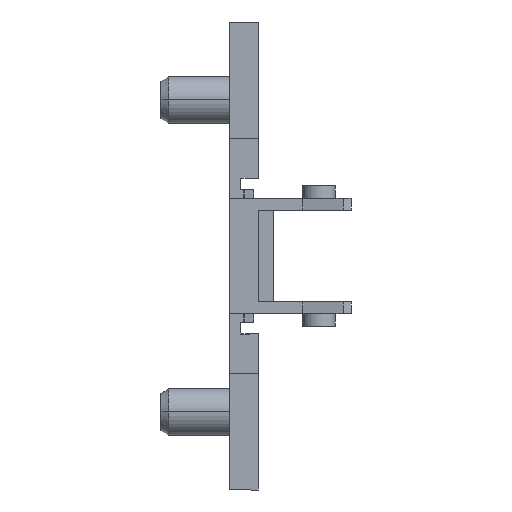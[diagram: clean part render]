
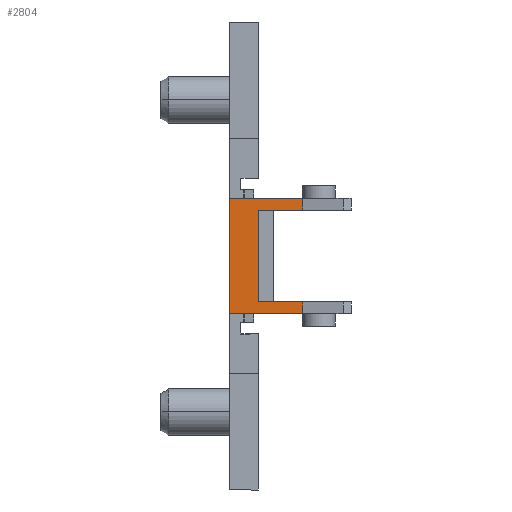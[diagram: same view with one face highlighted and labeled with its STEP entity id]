
A CAD part, front view. The second image highlights one B-rep face of the part: STEP entity #2804.
In plain terms, the highlighted planar face has unit normal (0, -1, 0).
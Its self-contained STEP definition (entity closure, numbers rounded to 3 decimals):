
#88 = VERTEX_POINT ( 'NONE', #331 ) ;
#89 = VERTEX_POINT ( 'NONE', #318 ) ;
#90 = VERTEX_POINT ( 'NONE', #362 ) ;
#91 = VERTEX_POINT ( 'NONE', #330 ) ;
#95 = VERTEX_POINT ( 'NONE', #380 ) ;
#97 = VERTEX_POINT ( 'NONE', #378 ) ;
#98 = VERTEX_POINT ( 'NONE', #379 ) ;
#99 = VERTEX_POINT ( 'NONE', #385 ) ;
#318 = CARTESIAN_POINT ( 'NONE',  ( 7.523, -16.55, -5.9 ) ) ;
#330 = CARTESIAN_POINT ( 'NONE',  ( 0., -16.55, 5.9 ) ) ;
#331 = CARTESIAN_POINT ( 'NONE',  ( 7.523, -16.55, -4.7 ) ) ;
#362 = CARTESIAN_POINT ( 'NONE',  ( 0., -16.55, -5.9 ) ) ;
#378 = CARTESIAN_POINT ( 'NONE',  ( 7.523, -16.55, 5.9 ) ) ;
#379 = CARTESIAN_POINT ( 'NONE',  ( 7.523, -16.55, 4.7 ) ) ;
#380 = CARTESIAN_POINT ( 'NONE',  ( 3., -16.55, 4.7 ) ) ;
#385 = CARTESIAN_POINT ( 'NONE',  ( 3., -16.55, -4.7 ) ) ;
#529 = CARTESIAN_POINT ( 'NONE',  ( 12.5, -16.55, -4.7 ) ) ;
#566 = DIRECTION ( 'NONE',  ( 1., 0., 0. ) ) ;
#950 = CARTESIAN_POINT ( 'NONE',  ( 1.5, -16.55, -5.9 ) ) ;
#956 = DIRECTION ( 'NONE',  ( 1., 0., 0. ) ) ;
#1186 = CARTESIAN_POINT ( 'NONE',  ( 12.5, -16.55, 5.9 ) ) ;
#1190 = DIRECTION ( 'NONE',  ( -1., 0., 0. ) ) ;
#1193 = CARTESIAN_POINT ( 'NONE',  ( 12.5, -16.55, 4.7 ) ) ;
#1203 = DIRECTION ( 'NONE',  ( 1., 0., 0. ) ) ;
#1235 = CARTESIAN_POINT ( 'NONE',  ( 0., -16.55, 15.37 ) ) ;
#1236 = DIRECTION ( 'NONE',  ( 0., 0., -1. ) ) ;
#1259 = CARTESIAN_POINT ( 'NONE',  ( 7.523, -16.55, 67.733 ) ) ;
#1260 = DIRECTION ( 'NONE',  ( 0., 0., -1. ) ) ;
#1484 = EDGE_CURVE ( 'NONE', #90, #89, #2015, .T. ) ;
#1587 = AXIS2_PLACEMENT_3D ( 'NONE', #4085, #4101, #4102 ) ;
#1671 = EDGE_CURVE ( 'NONE', #97, #91, #2183, .T. ) ;
#1683 = EDGE_CURVE ( 'NONE', #95, #98, #2200, .T. ) ;
#1708 = EDGE_CURVE ( 'NONE', #91, #90, #2225, .T. ) ;
#1731 = EDGE_CURVE ( 'NONE', #97, #98, #2240, .T. ) ;
#2007 = VECTOR ( 'NONE', #956, 1000. ) ;
#2015 = LINE ( 'NONE', #950, #2007 ) ;
#2183 = LINE ( 'NONE', #1186, #2192 ) ;
#2192 = VECTOR ( 'NONE', #1190, 1000. ) ;
#2200 = LINE ( 'NONE', #1193, #2202 ) ;
#2202 = VECTOR ( 'NONE', #1203, 1000. ) ;
#2225 = LINE ( 'NONE', #1235, #2226 ) ;
#2226 = VECTOR ( 'NONE', #1236, 1000. ) ;
#2240 = LINE ( 'NONE', #1259, #2241 ) ;
#2241 = VECTOR ( 'NONE', #1260, 1000. ) ;
#2349 = FACE_OUTER_BOUND ( 'NONE', #3528, .T. ) ;
#2526 = LINE ( 'NONE', #4504, #2527 ) ;
#2527 = VECTOR ( 'NONE', #4505, 1000. ) ;
#2528 = LINE ( 'NONE', #4510, #2540 ) ;
#2540 = VECTOR ( 'NONE', #4515, 1000. ) ;
#2667 = LINE ( 'NONE', #529, #2671 ) ;
#2671 = VECTOR ( 'NONE', #566, 1000. ) ;
#2804 = ADVANCED_FACE ( 'NONE', ( #2349 ), #4082, .T. ) ;
#3207 = ORIENTED_EDGE ( 'NONE', *, *, #3866, .F. ) ;
#3477 = ORIENTED_EDGE ( 'NONE', *, *, #1683, .T. ) ;
#3528 = EDGE_LOOP ( 'NONE', ( #3556, #3477, #3654, #3557, #3537, #3566, #3686, #3207 ) ) ;
#3537 = ORIENTED_EDGE ( 'NONE', *, *, #1708, .T. ) ;
#3556 = ORIENTED_EDGE ( 'NONE', *, *, #3788, .F. ) ;
#3557 = ORIENTED_EDGE ( 'NONE', *, *, #1671, .T. ) ;
#3566 = ORIENTED_EDGE ( 'NONE', *, *, #1484, .T. ) ;
#3654 = ORIENTED_EDGE ( 'NONE', *, *, #1731, .F. ) ;
#3686 = ORIENTED_EDGE ( 'NONE', *, *, #3793, .F. ) ;
#3788 = EDGE_CURVE ( 'NONE', #95, #99, #2526, .T. ) ;
#3793 = EDGE_CURVE ( 'NONE', #88, #89, #2528, .T. ) ;
#3866 = EDGE_CURVE ( 'NONE', #99, #88, #2667, .T. ) ;
#4082 = PLANE ( 'NONE',  #1587 ) ;
#4085 = CARTESIAN_POINT ( 'NONE',  ( 12.5, -16.55, -5.9 ) ) ;
#4101 = DIRECTION ( 'NONE',  ( 0., -1., 0. ) ) ;
#4102 = DIRECTION ( 'NONE',  ( -1., 0., 0. ) ) ;
#4504 = CARTESIAN_POINT ( 'NONE',  ( 3., -16.55, -5.9 ) ) ;
#4505 = DIRECTION ( 'NONE',  ( 0., 0., -1. ) ) ;
#4510 = CARTESIAN_POINT ( 'NONE',  ( 7.523, -16.55, 67.733 ) ) ;
#4515 = DIRECTION ( 'NONE',  ( 0., 0., -1. ) ) ;
